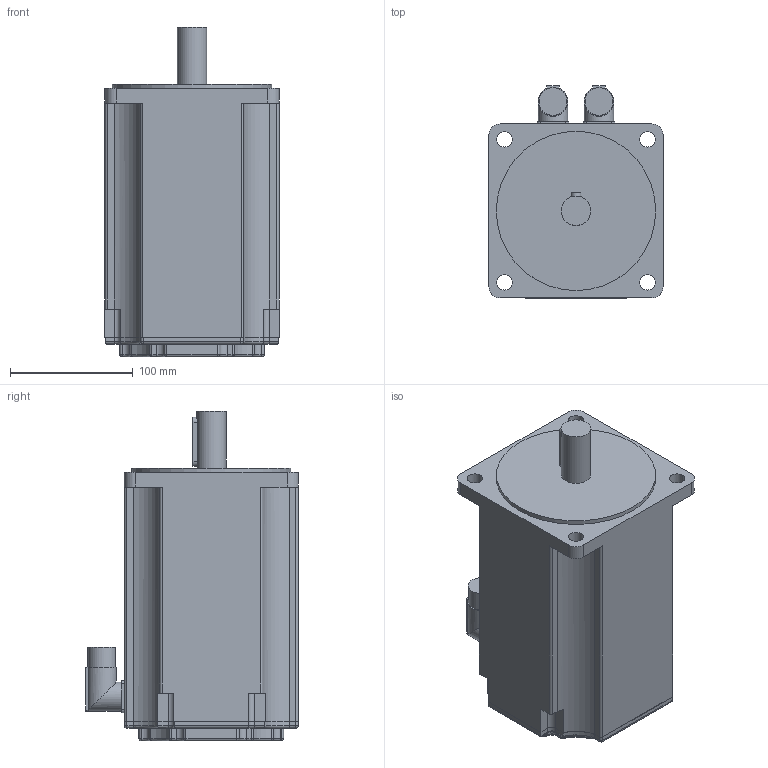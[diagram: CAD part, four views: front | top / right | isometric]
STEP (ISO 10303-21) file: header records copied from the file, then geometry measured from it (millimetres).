
FILE_DESCRIPTION(/* description */ (''),/* implementation_level */ '2;1');
FILE_NAME(/* name */ '\\Lafnas01\disegni\Archivi Lafert\3D\CAD 3D\MODELLI\Assiemi clienti\Serad\Modelli 3D Serad\B71Q\Encoder\Enc With Brake\B7108Qxx6BRx2033.ipt.stp',/* time_stamp */ '2015-09-07T10:52:14+02:00',/* author */ ('Pastrello Ylenia'),/* organization */ (''),/* preprocessor_version */ 'ST-DEVELOPER v15.6',/* originating_system */ 'Autodesk Inventor 2015',/* authorisation */ '');
FILE_SCHEMA (('AUTOMOTIVE_DESIGN { 1 0 10303 214 3 1 1 }'));
Length unit declared in the file: millimetre
Products named in the file (1): B7108Qxx6BRx2033
Bounding box: 142 x 173.5 x 269 mm (x, y, z)
Volume: 3873137.9 mm3; surface area: 167186.7 mm2
Topology: 1 solids, 1 shells, 251 faces, 624 edges, 386 vertices
Faces by surface type: cylinder 118, plane 93, torus 20, sphere 20
Full cylindrical faces by diameter (mm): 12.5 x4, 22.7 x2, 24 x3, 130 x1
Entity records: 7508 total; most frequent: CARTESIAN_POINT 1382, DIRECTION 1362, ORIENTED_EDGE 1220, EDGE_CURVE 610, AXIS2_PLACEMENT_3D 510, VERTEX_POINT 382, LINE 342, VECTOR 342
